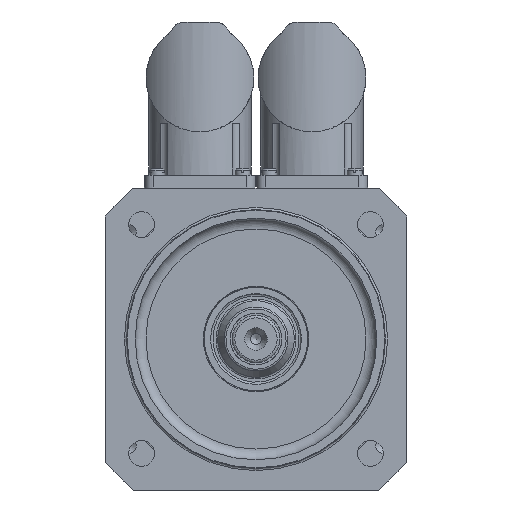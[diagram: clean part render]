
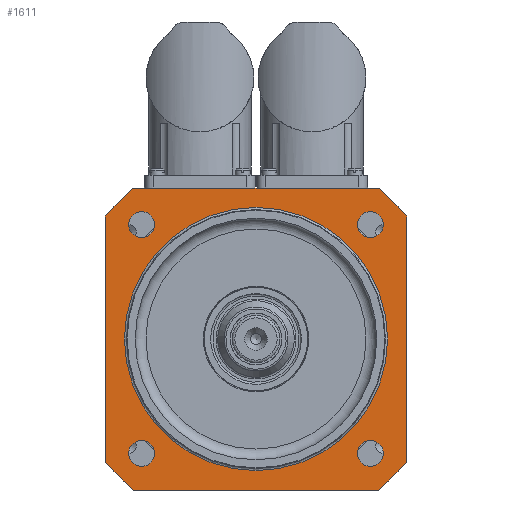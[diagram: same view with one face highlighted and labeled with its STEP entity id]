
A CAD part, front view. The second image highlights one B-rep face of the part: STEP entity #1611.
In plain terms, the highlighted planar face has unit normal (0, -1, 0).
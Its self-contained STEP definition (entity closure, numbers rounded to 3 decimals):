
#1611=ADVANCED_FACE('',(#4075,#2477,#4076,#4077,#4078,#4079),#2334,.T.);
#2334=PLANE('',#12509);
#2477=FACE_OUTER_BOUND('',#4620,.T.);
#3057=LINE('',#17724,#3567);
#3058=LINE('',#17728,#3568);
#3059=LINE('',#17732,#3569);
#3060=LINE('',#17736,#3570);
#3567=VECTOR('',#14115,1.);
#3568=VECTOR('',#14118,1.);
#3569=VECTOR('',#14121,1.);
#3570=VECTOR('',#14124,1.);
#4075=FACE_BOUND('',#4619,.T.);
#4076=FACE_BOUND('',#4621,.T.);
#4077=FACE_BOUND('',#4622,.T.);
#4078=FACE_BOUND('',#4623,.T.);
#4079=FACE_BOUND('',#4624,.T.);
#4619=EDGE_LOOP('',(#5753));
#4620=EDGE_LOOP('',(#5754,#5755,#5756,#5757,#5758,#5759,#5760,#5761));
#4621=EDGE_LOOP('',(#5762));
#4622=EDGE_LOOP('',(#5763));
#4623=EDGE_LOOP('',(#5764));
#4624=EDGE_LOOP('',(#5765));
#5753=ORIENTED_EDGE('',*,*,#10133,.T.);
#5754=ORIENTED_EDGE('',*,*,#10134,.T.);
#5755=ORIENTED_EDGE('',*,*,#10135,.T.);
#5756=ORIENTED_EDGE('',*,*,#10136,.T.);
#5757=ORIENTED_EDGE('',*,*,#10137,.T.);
#5758=ORIENTED_EDGE('',*,*,#10138,.T.);
#5759=ORIENTED_EDGE('',*,*,#10139,.T.);
#5760=ORIENTED_EDGE('',*,*,#10140,.T.);
#5761=ORIENTED_EDGE('',*,*,#10141,.F.);
#5762=ORIENTED_EDGE('',*,*,#10142,.T.);
#5763=ORIENTED_EDGE('',*,*,#10143,.T.);
#5764=ORIENTED_EDGE('',*,*,#10144,.T.);
#5765=ORIENTED_EDGE('',*,*,#10145,.T.);
#8937=VERTEX_POINT('',#17720);
#8938=VERTEX_POINT('',#17722);
#8939=VERTEX_POINT('',#17723);
#8940=VERTEX_POINT('',#17725);
#8941=VERTEX_POINT('',#17727);
#8942=VERTEX_POINT('',#17729);
#8943=VERTEX_POINT('',#17731);
#8944=VERTEX_POINT('',#17733);
#8945=VERTEX_POINT('',#17735);
#8946=VERTEX_POINT('',#17738);
#8947=VERTEX_POINT('',#17740);
#8948=VERTEX_POINT('',#17742);
#8949=VERTEX_POINT('',#17744);
#10133=EDGE_CURVE('',#8937,#8937,#11705,.T.);
#10134=EDGE_CURVE('',#8938,#8939,#11706,.T.);
#10135=EDGE_CURVE('',#8939,#8940,#3057,.T.);
#10136=EDGE_CURVE('',#8940,#8941,#11707,.T.);
#10137=EDGE_CURVE('',#8941,#8942,#3058,.T.);
#10138=EDGE_CURVE('',#8942,#8943,#11708,.T.);
#10139=EDGE_CURVE('',#8943,#8944,#3059,.T.);
#10140=EDGE_CURVE('',#8944,#8945,#11709,.T.);
#10141=EDGE_CURVE('',#8938,#8945,#3060,.T.);
#10142=EDGE_CURVE('',#8946,#8946,#11710,.T.);
#10143=EDGE_CURVE('',#8947,#8947,#11711,.T.);
#10144=EDGE_CURVE('',#8948,#8948,#11712,.T.);
#10145=EDGE_CURVE('',#8949,#8949,#11713,.T.);
#11705=CIRCLE('',#12500,30.5);
#11706=CIRCLE('',#12501,45.);
#11707=CIRCLE('',#12502,45.);
#11708=CIRCLE('',#12503,45.);
#11709=CIRCLE('',#12504,45.);
#11710=CIRCLE('',#12505,3.);
#11711=CIRCLE('',#12506,3.);
#11712=CIRCLE('',#12507,3.);
#11713=CIRCLE('',#12508,3.);
#12500=AXIS2_PLACEMENT_3D('',#17719,#14111,#14112);
#12501=AXIS2_PLACEMENT_3D('',#17721,#14113,#14114);
#12502=AXIS2_PLACEMENT_3D('',#17726,#14116,#14117);
#12503=AXIS2_PLACEMENT_3D('',#17730,#14119,#14120);
#12504=AXIS2_PLACEMENT_3D('',#17734,#14122,#14123);
#12505=AXIS2_PLACEMENT_3D('',#17737,#14125,#14126);
#12506=AXIS2_PLACEMENT_3D('',#17739,#14127,#14128);
#12507=AXIS2_PLACEMENT_3D('',#17741,#14129,#14130);
#12508=AXIS2_PLACEMENT_3D('',#17743,#14131,#14132);
#12509=AXIS2_PLACEMENT_3D('',#17745,#14133,#14134);
#14111=DIRECTION('',(0.,1.,0.));
#14112=DIRECTION('',(0.,0.,-1.));
#14113=DIRECTION('',(0.,-1.,0.));
#14114=DIRECTION('',(0.,0.,1.));
#14115=DIRECTION('',(1.,0.,0.));
#14116=DIRECTION('',(0.,-1.,0.));
#14117=DIRECTION('',(0.,0.,1.));
#14118=DIRECTION('',(0.,0.,1.));
#14119=DIRECTION('',(0.,-1.,0.));
#14120=DIRECTION('',(0.,0.,1.));
#14121=DIRECTION('',(-1.,0.,0.));
#14122=DIRECTION('',(0.,-1.,0.));
#14123=DIRECTION('',(0.,0.,1.));
#14124=DIRECTION('',(0.,0.,1.));
#14125=DIRECTION('',(0.,1.,0.));
#14126=DIRECTION('',(-1.,0.,0.));
#14127=DIRECTION('',(0.,1.,0.));
#14128=DIRECTION('',(0.,0.,-1.));
#14129=DIRECTION('',(0.,1.,0.));
#14130=DIRECTION('',(1.,0.,0.));
#14131=DIRECTION('',(0.,1.,0.));
#14132=DIRECTION('',(0.,0.,1.));
#14133=DIRECTION('',(0.,-1.,0.));
#14134=DIRECTION('',(0.,0.,-1.));
#17719=CARTESIAN_POINT('',(0.,-0.5,0.));
#17720=CARTESIAN_POINT('',(0.,-0.5,-30.5));
#17721=CARTESIAN_POINT('',(0.,-0.5,0.));
#17722=CARTESIAN_POINT('',(-35.,-0.5,-28.284));
#17723=CARTESIAN_POINT('',(-28.284,-0.5,-35.));
#17724=CARTESIAN_POINT('',(0.,-0.5,-35.));
#17725=CARTESIAN_POINT('',(28.284,-0.5,-35.));
#17726=CARTESIAN_POINT('',(0.,-0.5,0.));
#17727=CARTESIAN_POINT('',(35.,-0.5,-28.284));
#17728=CARTESIAN_POINT('',(35.,-0.5,-35.));
#17729=CARTESIAN_POINT('',(35.,-0.5,28.284));
#17730=CARTESIAN_POINT('',(0.,-0.5,0.));
#17731=CARTESIAN_POINT('',(28.284,-0.5,35.));
#17732=CARTESIAN_POINT('',(0.,-0.5,35.));
#17733=CARTESIAN_POINT('',(-28.284,-0.5,35.));
#17734=CARTESIAN_POINT('',(0.,-0.5,0.));
#17735=CARTESIAN_POINT('',(-35.,-0.5,28.284));
#17736=CARTESIAN_POINT('',(-35.,-0.5,-35.));
#17737=CARTESIAN_POINT('',(-26.517,-0.5,-26.517));
#17738=CARTESIAN_POINT('',(-29.517,-0.5,-26.517));
#17739=CARTESIAN_POINT('',(26.517,-0.5,-26.517));
#17740=CARTESIAN_POINT('',(26.517,-0.5,-29.517));
#17741=CARTESIAN_POINT('',(26.517,-0.5,26.517));
#17742=CARTESIAN_POINT('',(29.517,-0.5,26.517));
#17743=CARTESIAN_POINT('',(-26.517,-0.5,26.517));
#17744=CARTESIAN_POINT('',(-26.517,-0.5,29.517));
#17745=CARTESIAN_POINT('',(0.,-0.5,-35.));
